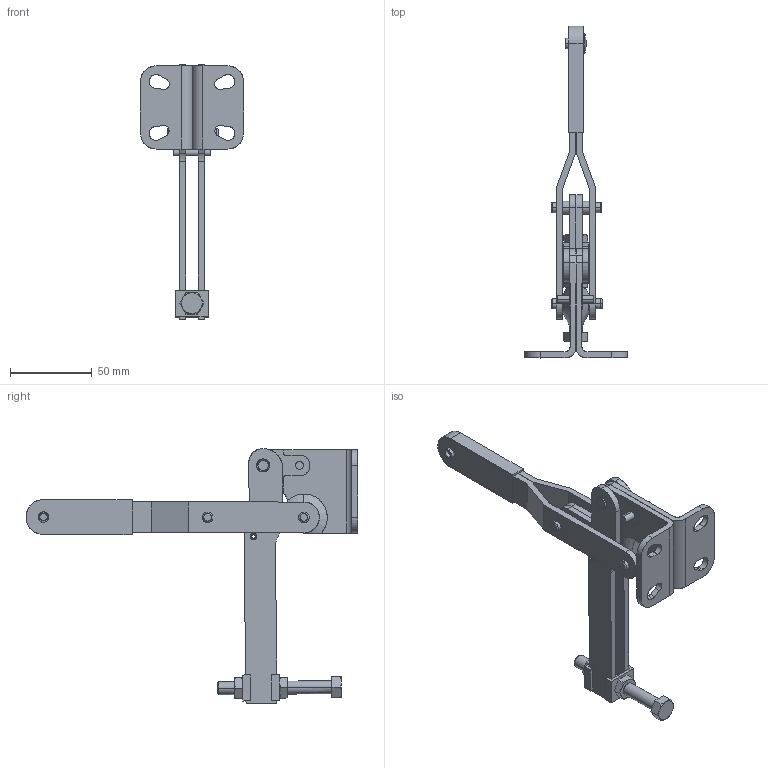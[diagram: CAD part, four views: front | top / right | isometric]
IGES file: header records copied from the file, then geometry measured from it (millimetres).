
Start section: SolidWorks IGES file using analytic representation for surfaces
Global section: file name: C:\lapeer-mfg\v400\IGES\V-400.IGS; native system: SolidWorks 2005 by SolidWorks Corporation; preprocessor: SolidWorks 2005 by SolidWorks Corporation; author: rtaylor; date: 051027.194226; units: inch
Bounding box: 62.97 x 202.72 x 155.66 mm (x, y, z)
Surface area: 68469.6 mm2 (no closed solid volume)
Topology: 0 solids, 0 shells, 398 faces, 6231 edges, 6227 vertices
Faces by surface type: revolution 212, bspline 186
